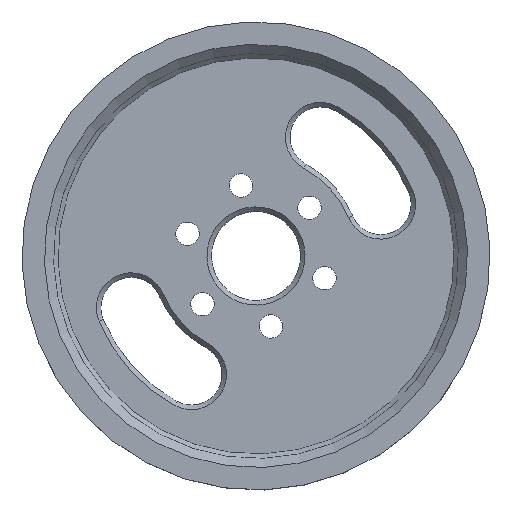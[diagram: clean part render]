
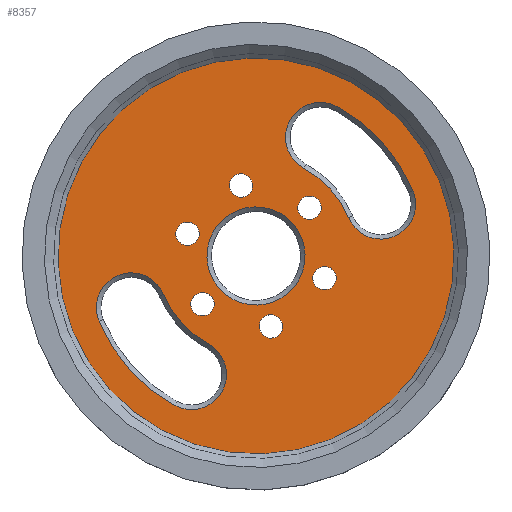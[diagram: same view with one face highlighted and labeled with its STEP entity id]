
A CAD part, top view. The second image highlights one B-rep face of the part: STEP entity #8357.
In plain terms, the highlighted planar face has unit normal (0, 0, 1).
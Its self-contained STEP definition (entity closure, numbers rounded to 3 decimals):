
#30=FACE_BOUND('',#989,.T.);
#31=FACE_BOUND('',#990,.T.);
#32=FACE_BOUND('',#991,.T.);
#33=FACE_BOUND('',#992,.T.);
#34=FACE_BOUND('',#993,.T.);
#35=FACE_BOUND('',#994,.T.);
#36=FACE_BOUND('',#995,.T.);
#37=FACE_BOUND('',#996,.T.);
#38=FACE_BOUND('',#997,.T.);
#44=PLANE('',#8879);
#506=FACE_OUTER_BOUND('',#988,.T.);
#988=EDGE_LOOP('',(#5645));
#989=EDGE_LOOP('',(#5646,#5647,#5648,#5649));
#990=EDGE_LOOP('',(#5650));
#991=EDGE_LOOP('',(#5651));
#992=EDGE_LOOP('',(#5652));
#993=EDGE_LOOP('',(#5653));
#994=EDGE_LOOP('',(#5654));
#995=EDGE_LOOP('',(#5655));
#996=EDGE_LOOP('',(#5656));
#997=EDGE_LOOP('',(#5657,#5658,#5659,#5660));
#2410=CIRCLE('',#8864,7.761);
#2412=CIRCLE('',#8867,37.761);
#2414=CIRCLE('',#8870,7.761);
#2416=CIRCLE('',#8873,22.239);
#2420=CIRCLE('',#8880,44.);
#2421=CIRCLE('',#8881,7.761);
#2422=CIRCLE('',#8882,22.239);
#2423=CIRCLE('',#8883,7.761);
#2424=CIRCLE('',#8884,37.761);
#2425=CIRCLE('',#8885,2.6);
#2426=CIRCLE('',#8886,2.6);
#2427=CIRCLE('',#8887,2.6);
#2428=CIRCLE('',#8888,2.6);
#2429=CIRCLE('',#8889,2.6);
#2430=CIRCLE('',#8890,2.6);
#2431=CIRCLE('',#8891,10.9);
#3319=VERTEX_POINT('',#13509);
#3320=VERTEX_POINT('',#13511);
#3323=VERTEX_POINT('',#13518);
#3325=VERTEX_POINT('',#13524);
#3329=VERTEX_POINT('',#13542);
#3330=VERTEX_POINT('',#13544);
#3331=VERTEX_POINT('',#13545);
#3332=VERTEX_POINT('',#13547);
#3333=VERTEX_POINT('',#13549);
#3334=VERTEX_POINT('',#13552);
#3335=VERTEX_POINT('',#13554);
#3336=VERTEX_POINT('',#13556);
#3337=VERTEX_POINT('',#13558);
#3338=VERTEX_POINT('',#13560);
#3339=VERTEX_POINT('',#13562);
#3340=VERTEX_POINT('',#13564);
#4234=EDGE_CURVE('',#3319,#3320,#2410,.T.);
#4238=EDGE_CURVE('',#3323,#3319,#2412,.T.);
#4241=EDGE_CURVE('',#3325,#3323,#2414,.T.);
#4243=EDGE_CURVE('',#3320,#3325,#2416,.T.);
#4250=EDGE_CURVE('',#3329,#3329,#2420,.T.);
#4251=EDGE_CURVE('',#3330,#3331,#2421,.T.);
#4252=EDGE_CURVE('',#3332,#3330,#2422,.T.);
#4253=EDGE_CURVE('',#3333,#3332,#2423,.T.);
#4254=EDGE_CURVE('',#3331,#3333,#2424,.T.);
#4255=EDGE_CURVE('',#3334,#3334,#2425,.T.);
#4256=EDGE_CURVE('',#3335,#3335,#2426,.T.);
#4257=EDGE_CURVE('',#3336,#3336,#2427,.T.);
#4258=EDGE_CURVE('',#3337,#3337,#2428,.T.);
#4259=EDGE_CURVE('',#3338,#3338,#2429,.T.);
#4260=EDGE_CURVE('',#3339,#3339,#2430,.T.);
#4261=EDGE_CURVE('',#3340,#3340,#2431,.T.);
#5645=ORIENTED_EDGE('',*,*,#4250,.F.);
#5646=ORIENTED_EDGE('',*,*,#4251,.F.);
#5647=ORIENTED_EDGE('',*,*,#4252,.F.);
#5648=ORIENTED_EDGE('',*,*,#4253,.F.);
#5649=ORIENTED_EDGE('',*,*,#4254,.F.);
#5650=ORIENTED_EDGE('',*,*,#4255,.F.);
#5651=ORIENTED_EDGE('',*,*,#4256,.F.);
#5652=ORIENTED_EDGE('',*,*,#4257,.F.);
#5653=ORIENTED_EDGE('',*,*,#4258,.F.);
#5654=ORIENTED_EDGE('',*,*,#4259,.F.);
#5655=ORIENTED_EDGE('',*,*,#4260,.F.);
#5656=ORIENTED_EDGE('',*,*,#4261,.F.);
#5657=ORIENTED_EDGE('',*,*,#4234,.F.);
#5658=ORIENTED_EDGE('',*,*,#4238,.F.);
#5659=ORIENTED_EDGE('',*,*,#4241,.F.);
#5660=ORIENTED_EDGE('',*,*,#4243,.F.);
#8357=ADVANCED_FACE('',(#506,#30,#31,#32,#33,#34,#35,#36,#37,#38),#44,.T.);
#8864=AXIS2_PLACEMENT_3D('',#13512,#10293,#10294);
#8867=AXIS2_PLACEMENT_3D('',#13520,#10301,#10302);
#8870=AXIS2_PLACEMENT_3D('',#13526,#10308,#10309);
#8873=AXIS2_PLACEMENT_3D('',#13529,#10314,#10315);
#8879=AXIS2_PLACEMENT_3D('',#13541,#10329,#10330);
#8880=AXIS2_PLACEMENT_3D('',#13543,#10331,#10332);
#8881=AXIS2_PLACEMENT_3D('',#13546,#10333,#10334);
#8882=AXIS2_PLACEMENT_3D('',#13548,#10335,#10336);
#8883=AXIS2_PLACEMENT_3D('',#13550,#10337,#10338);
#8884=AXIS2_PLACEMENT_3D('',#13551,#10339,#10340);
#8885=AXIS2_PLACEMENT_3D('',#13553,#10341,#10342);
#8886=AXIS2_PLACEMENT_3D('',#13555,#10343,#10344);
#8887=AXIS2_PLACEMENT_3D('',#13557,#10345,#10346);
#8888=AXIS2_PLACEMENT_3D('',#13559,#10347,#10348);
#8889=AXIS2_PLACEMENT_3D('',#13561,#10349,#10350);
#8890=AXIS2_PLACEMENT_3D('',#13563,#10351,#10352);
#8891=AXIS2_PLACEMENT_3D('',#13565,#10353,#10354);
#10293=DIRECTION('center_axis',(0.,0.,
1.));
#10294=DIRECTION('ref_axis',(0.477,0.879,0.));
#10301=DIRECTION('center_axis',(0.,0.,
1.));
#10302=DIRECTION('ref_axis',(-0.924,-0.383,0.));
#10308=DIRECTION('center_axis',(0.,0.,
1.));
#10309=DIRECTION('ref_axis',(0.924,0.383,0.));
#10314=DIRECTION('center_axis',(0.,0.,
-1.));
#10315=DIRECTION('ref_axis',(-0.924,-0.383,0.));
#10329=DIRECTION('center_axis',(0.,0.,
1.));
#10330=DIRECTION('ref_axis',(-0.669,0.743,0.));
#10331=DIRECTION('center_axis',(0.,0.,
-1.));
#10332=DIRECTION('ref_axis',(-0.669,0.743,0.));
#10333=DIRECTION('center_axis',(0.,0.,
1.));
#10334=DIRECTION('ref_axis',(-0.924,-0.383,0.));
#10335=DIRECTION('center_axis',(0.,0.,
-1.));
#10336=DIRECTION('ref_axis',(0.924,0.383,0.));
#10337=DIRECTION('center_axis',(0.,0.,
1.));
#10338=DIRECTION('ref_axis',(0.477,0.879,0.));
#10339=DIRECTION('center_axis',(0.,0.,
1.));
#10340=DIRECTION('ref_axis',(0.924,0.383,0.));
#10341=DIRECTION('center_axis',(0.,0.,
1.));
#10342=DIRECTION('ref_axis',(0.669,-0.743,0.));
#10343=DIRECTION('center_axis',(0.,0.,
1.));
#10344=DIRECTION('ref_axis',(0.669,-0.743,0.));
#10345=DIRECTION('center_axis',(0.,0.,
1.));
#10346=DIRECTION('ref_axis',(0.669,-0.743,0.));
#10347=DIRECTION('center_axis',(0.,0.,
1.));
#10348=DIRECTION('ref_axis',(0.669,-0.743,0.));
#10349=DIRECTION('center_axis',(0.,0.,
1.));
#10350=DIRECTION('ref_axis',(0.669,-0.743,0.));
#10351=DIRECTION('center_axis',(0.,0.,
1.));
#10352=DIRECTION('ref_axis',(0.669,-0.743,0.));
#10353=DIRECTION('center_axis',(0.,0.,
1.));
#10354=DIRECTION('ref_axis',(0.669,-0.743,0.));
#13509=CARTESIAN_POINT('',(-18.024,-33.182,-0.491));
#13511=CARTESIAN_POINT('',(-10.615,-19.542,-0.491));
#13512=CARTESIAN_POINT('Origin',(-14.319,-26.362,-0.491));
#13518=CARTESIAN_POINT('',(-34.875,-14.479,-0.491));
#13520=CARTESIAN_POINT('Origin',(0.,0.,
-0.491));
#13524=CARTESIAN_POINT('',(-20.539,-8.527,-0.491));
#13526=CARTESIAN_POINT('Origin',(-27.707,-11.503,-0.491));
#13529=CARTESIAN_POINT('Origin',(0.,0.,
-0.491));
#13541=CARTESIAN_POINT('Origin',(0.,0.,
-0.491));
#13542=CARTESIAN_POINT('',(29.452,-32.689,-0.491));
#13543=CARTESIAN_POINT('Origin',(0.,0.,
-0.491));
#13544=CARTESIAN_POINT('',(20.539,8.527,-0.491));
#13545=CARTESIAN_POINT('',(34.875,14.479,-0.491));
#13546=CARTESIAN_POINT('Origin',(27.707,11.503,-0.491));
#13547=CARTESIAN_POINT('',(10.615,19.542,-0.491));
#13548=CARTESIAN_POINT('Origin',(0.,0.,
-0.491));
#13549=CARTESIAN_POINT('',(18.024,33.182,-0.491));
#13550=CARTESIAN_POINT('Origin',(14.319,26.362,-0.491));
#13551=CARTESIAN_POINT('Origin',(0.,0.,
-0.491));
#13552=CARTESIAN_POINT('',(-5.072,17.581,-0.491));
#13553=CARTESIAN_POINT('Origin',(-3.332,15.649,-0.491));
#13554=CARTESIAN_POINT('',(-13.627,-8.778,-0.491));
#13555=CARTESIAN_POINT('Origin',(-11.887,-10.71,-0.491));
#13556=CARTESIAN_POINT('',(10.146,12.642,-0.491));
#13557=CARTESIAN_POINT('Origin',(11.887,10.71,-0.491));
#13558=CARTESIAN_POINT('',(-16.959,6.871,-0.491));
#13559=CARTESIAN_POINT('Origin',(-15.219,4.939,-0.491));
#13560=CARTESIAN_POINT('',(1.591,-13.718,-0.491));
#13561=CARTESIAN_POINT('Origin',(3.332,-15.649,-0.491));
#13562=CARTESIAN_POINT('',(13.478,-3.008,-0.491));
#13563=CARTESIAN_POINT('Origin',(15.219,-4.939,-0.491));
#13564=CARTESIAN_POINT('',(-7.296,8.098,-0.491));
#13565=CARTESIAN_POINT('Origin',(0.,0.,
-0.491));
